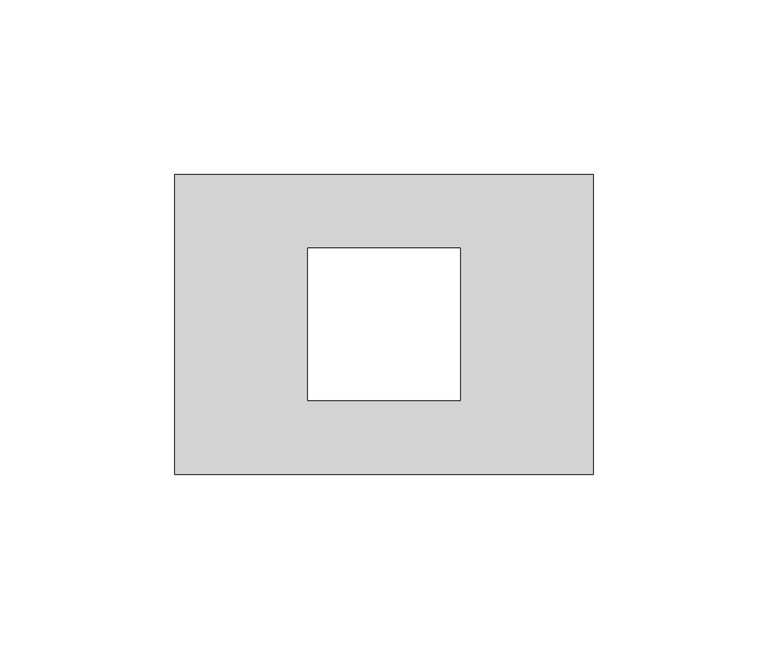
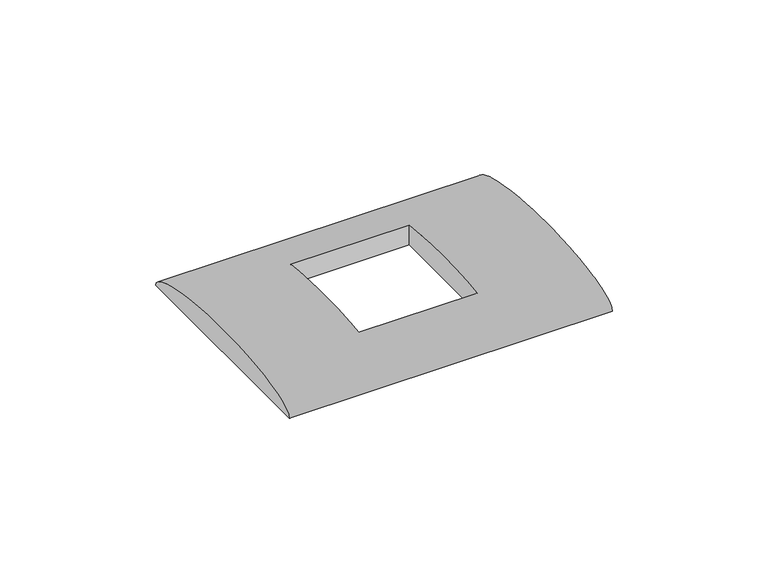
"""IFC4 building model written with IfcOpenShell, lengths in millimetres: proxy geometry, 00-Placca : Placca 2 moduli su scatola 3."""

from ifc_helpers import new_model, si_unit, point, frame, origin, place, context, project, spatial, ellipse_curve, trimmed, source, transform, mapped, element, save
from ifc_brep_helpers import plane_surface, extruded_surface, advanced_brep


def electrical_fixtures_c9cf6a91(model_context):
    return source(origin(), model_context, "Body", "AdvancedBrep", [
        advanced_brep(
        [(60.0, -43.0, 2.0), (60.0, 43.0, 2.0), (-60.0, -43.0, 2.0), (-60.0, 43.0, 2.0), (22.0, -22.0, 2.0), (22.0, 22.0, 2.0), (-22.0, 22.0, 2.0), (-22.0, -22.0, 2.0), (22.0, -22.0, 9.7328641), (22.0, 22.0, 9.7328641), (-22.0, 22.0, 9.7328641), (-22.0, -22.0, 9.7328641)],
        [
            (0, 1),
            (1, 0, ellipse_curve(frame((60.0, 0.0, 2.0), z_axis=(1.0, 0.0, 0.0), x_axis=(0.0, 1.0, 0.0)), 43.0, 9.0)),
            (2, 3, ellipse_curve(frame((-60.0, 0.0, 2.0), z_axis=(-1.0, 0.0, 0.0), x_axis=(0.0, 1.0, 0.0)), 43.0, 9.0)),
            (3, 2),
            (0, 2),
            (3, 1),
            (4, 5),
            (5, 6),
            (6, 7),
            (7, 4),
            (4, 8),
            (8, 9, ellipse_curve(frame((22.0, 0.0, 2.0), z_axis=(-1.0, 0.0, 0.0), x_axis=(0.0, 1.0, 0.0)), 43.0, 9.0)),
            (9, 5),
            (9, 10),
            (10, 6),
            (10, 11, ellipse_curve(frame((-22.0, 0.0, 2.0), z_axis=(1.0, 0.0, 0.0), x_axis=(0.0, 1.0, 0.0)), 43.0, 9.0)),
            (11, 7),
            (11, 8),
        ],
        [
            plane_surface(frame((60.0, 43.0, 2.0), z_axis=(1.0, 0.0, 0.0), x_axis=(0.0, 1.0, 0.0))),
            plane_surface(frame((-60.0, 43.0, 2.0), z_axis=(-1.0, 0.0, 0.0), x_axis=(0.0, -1.0, 0.0))),
            plane_surface(frame((60.0, -43.0, 2.0), z_axis=(0.0, 0.0, -1.0), x_axis=(-1.0, 0.0, 0.0))),
            plane_surface(frame((22.0, -22.0, 13.0), z_axis=(-1.0, 0.0, 0.0), x_axis=(0.0, 0.0, -1.0))),
            plane_surface(frame((22.0, 22.0, 13.0), z_axis=(0.0, -1.0, 0.0), x_axis=(0.0, 0.0, -1.0))),
            plane_surface(frame((-22.0, 22.0, 13.0), z_axis=(1.0, 0.0, 0.0), x_axis=(0.0, 0.0, -1.0))),
            plane_surface(frame((-22.0, -22.0, 13.0), z_axis=(0.0, 1.0, 0.0), x_axis=(0.0, 0.0, -1.0))),
            extruded_surface(trimmed(ellipse_curve(frame((-180.0, 0.0, 2.0), z_axis=(1.0, 0.0, 0.0), x_axis=(0.0, 1.0, 0.0)), 43.0, 9.0), [point((-180.0, 43.0, 2.0))], [point((-180.0, -43.0, 2.0))], True, "CARTESIAN"), (120.0, 0.0, 0.0), 120.0),
        ],
        [
            (0, [[1, 2]]),
            (1, [[3, 4]]),
            (2, [[-1, 5, -4, 6], [7, 8, 9, 10]]),
            (3, [[11, 12, 13, -7]]),
            (4, [[-13, 14, 15, -8]]),
            (5, [[-15, 16, 17, -9]]),
            (6, [[-11, -10, -17, 18]]),
            (7, [[-2, -6, -3, -5], [-12, -18, -16, -14]]),
        ],
    ),
    ])


if __name__ == "__main__":
    model = new_model("IFC4")
    model_context = context("Model", 3, world=origin())
    ifc_project = project(units=[si_unit("LENGTHUNIT", "METRE", prefix="MILLI")], contexts=[model_context])
    site = spatial("IfcSite", under=ifc_project)
    building = spatial("IfcBuilding", under=site)
    placement = place(None, origin())
    electrical_fixtures_shape = electrical_fixtures_c9cf6a91(model_context)
    element("IfcBuildingElementProxy", 1, Name="00-Placca : Placca 2 moduli su scatola 3", ObjectType="00-Placca : Placca 2 moduli su scatola 3", at=placement, inside=building, context=model_context, shape_type="MappedRepresentation", body=[
        mapped(electrical_fixtures_shape, transform((0.0, 0.0, 0.0), x_axis=(1.0, 0.0, 0.0), y_axis=(0.0, 1.0, 0.0), z_axis=(0.0, 0.0, 1.0))),
    ])
    save(model, "model.ifc")
